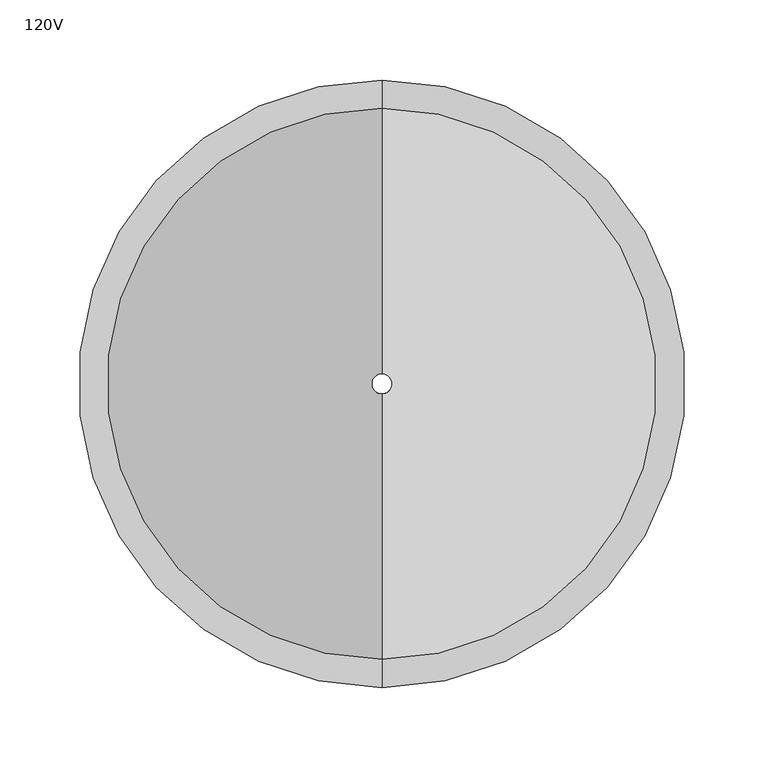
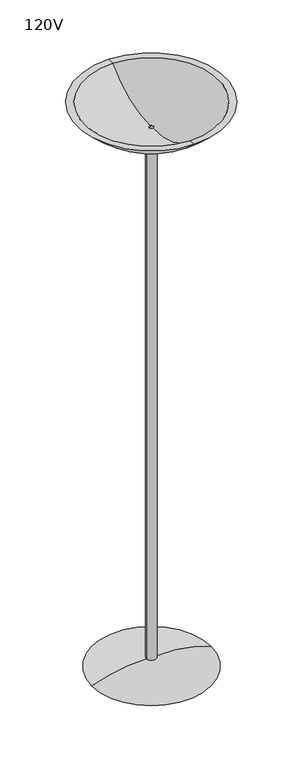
"""IFC4 building model written with IfcOpenShell, lengths in millimetres: light fixture geometry, Floor Lamp - Torchiere : 120V."""

import ifcopenshell
import ifcopenshell.guid

model = None  # the IFC model being written
_history = None  # IfcOwnerHistory: only IFC2X3 demands one
_inside = {}  # id of a spatial element -> (the spatial element, [elements in it])
_under = {}  # id of a project, library or spatial element -> (it, [spatial elements below it])
_declared = {}  # id of a project -> (the project, [libraries it declares])
_typed = {}  # id of a type object -> (the type object, [elements of that type])
_made_of = {}  # id of a material, layer set ... -> (it, [elements and type objects made of it])


def new_model(schema):
    """Start an empty IFC model of exactly this schema.

    Asked for "IFC4X3", IfcOpenShell would pick the latest addendum, in which some entities
    have other attributes; the version numbers below select the first issue.
    IFC2X3 requires an IfcOwnerHistory on every rooted entity: one is made here for all.
    """
    global model, _history
    if schema == "IFC4X3":
        model = ifcopenshell.file(schema_version=(4, 3, 0, 0))
    else:
        model = ifcopenshell.file(schema=schema)
    _inside.clear()
    _under.clear()
    _declared.clear()
    _typed.clear()
    _made_of.clear()
    _history = None
    if model.schema == "IFC2X3":
        org = make("IfcOrganization", Name="unknown")
        user = make(
            "IfcPersonAndOrganization",
            ThePerson=make("IfcPerson", FamilyName="unknown"),
            TheOrganization=org,
        )
        app = make(
            "IfcApplication",
            ApplicationDeveloper=org,
            Version="unknown",
            ApplicationFullName="unknown",
            ApplicationIdentifier="unknown",
        )
        _history = make(
            "IfcOwnerHistory",
            OwningUser=user,
            OwningApplication=app,
            ChangeAction="ADDED",
            CreationDate=0,
        )
    return model


def make(cls, **values):
    """One entity of the class cls with the attributes given. An attribute that is None is left unset."""
    return model.create_entity(
        cls, **{name: value for name, value in values.items() if value is not None}
    )


def rooted(cls, **values):
    """An entity with a GlobalId (a new one), such as an element, a storey or a relation."""
    return make(cls, GlobalId=ifcopenshell.guid.new(), OwnerHistory=_history, **values)


def si_unit(unit_type, name, prefix=None):
    """IfcSIUnit, for example si_unit("LENGTHUNIT", "METRE", prefix="MILLI")."""
    return make("IfcSIUnit", UnitType=unit_type, Prefix=prefix, Name=name)


def assignment(units):
    """IfcUnitAssignment: the units of a project."""
    return None if units is None else make("IfcUnitAssignment", Units=units)


def point(xyz):
    """IfcCartesianPoint."""
    return None if xyz is None else make("IfcCartesianPoint", Coordinates=xyz)


def direction(xyz):
    """IfcDirection."""
    return None if xyz is None else make("IfcDirection", DirectionRatios=xyz)


def frame(location, z_axis=None, x_axis=None):
    """IfcAxis2Placement3D, a coordinate frame: its origin and axes. An axis left out is left unset."""
    return make(
        "IfcAxis2Placement3D",
        Location=point(location),
        Axis=direction(z_axis),
        RefDirection=direction(x_axis),
    )


def origin():
    """The frame at (0, 0, 0) with its axes left unset."""
    return frame((0.0, 0.0, 0.0))


def place(relative_to, where):
    """IfcLocalPlacement: puts the frame where relative to a parent placement (None: the world)."""
    return make(
        "IfcLocalPlacement", PlacementRelTo=relative_to, RelativePlacement=where
    )


def context(
    kind, dimensions, precision=None, world=None, true_north=None, identifier=None
):
    """IfcGeometricRepresentationContext, for example the 3D "Model" context."""
    return make(
        "IfcGeometricRepresentationContext",
        ContextIdentifier=identifier,
        ContextType=kind,
        CoordinateSpaceDimension=dimensions,
        Precision=precision,
        WorldCoordinateSystem=world,
        TrueNorth=true_north,
    )


def project(units=None, contexts=None):
    """IfcProject with its units and contexts."""
    return rooted(
        "IfcProject",
        Name="project",
        RepresentationContexts=contexts,
        UnitsInContext=assignment(units),
    )


def spatial(cls, under=None, at=None, **own):
    """A site, building, storey or space (cls), placed at a placement, below another one or the project."""
    s = rooted(cls, ObjectPlacement=at, **own)
    if under is not None:
        _under.setdefault(under.id(), (under, []))[1].append(s)
    return s


def polyline(points):
    """IfcPolyline through the points."""
    return make("IfcPolyline", Points=[point(p) for p in points])


def circle_curve(where, radius):
    """IfcCircle in the frame where."""
    return make("IfcCircle", Position=where, Radius=radius)


def ellipse_curve(where, semi_axis1, semi_axis2):
    """IfcEllipse in the frame where."""
    return make(
        "IfcEllipse", Position=where, SemiAxis1=semi_axis1, SemiAxis2=semi_axis2
    )


def trimmed(basis, trim1, trim2, sense, master):
    """IfcTrimmedCurve: the piece of a basis curve between two trims."""
    return make(
        "IfcTrimmedCurve",
        BasisCurve=basis,
        Trim1=trim1,
        Trim2=trim2,
        SenseAgreement=sense,
        MasterRepresentation=master,
    )


def shape(context_of_items, identifier, shape_type, items):
    """IfcShapeRepresentation: the items that make up one representation, for example the "Body"."""
    return make(
        "IfcShapeRepresentation",
        ContextOfItems=context_of_items,
        RepresentationIdentifier=identifier,
        RepresentationType=shape_type,
        Items=items,
    )


def source(mapping_origin, context_of_items, identifier, shape_type, items):
    """IfcRepresentationMap: a shape defined once, which mapped items show again and again."""
    return make(
        "IfcRepresentationMap",
        MappingOrigin=mapping_origin,
        MappedRepresentation=shape(context_of_items, identifier, shape_type, items),
    )


def transform(
    local_origin,
    x_axis=None,
    y_axis=None,
    z_axis=None,
    scale=None,
    scale2=None,
    scale3=None,
    uniform=True,
):
    """IfcCartesianTransformationOperator3D, or its non-uniform kind. x_axis, y_axis, z_axis: its Axis1, 2, 3."""
    if uniform:
        return make(
            "IfcCartesianTransformationOperator3D",
            Axis1=direction(x_axis),
            Axis2=direction(y_axis),
            LocalOrigin=point(local_origin),
            Scale=scale,
            Axis3=direction(z_axis),
        )
    return make(
        "IfcCartesianTransformationOperator3DnonUniform",
        Axis1=direction(x_axis),
        Axis2=direction(y_axis),
        LocalOrigin=point(local_origin),
        Scale=scale,
        Axis3=direction(z_axis),
        Scale2=scale2,
        Scale3=scale3,
    )


def mapped(mapping_source, mapping_target):
    """IfcMappedItem: shows the shape of a source again, moved by a transform."""
    return make(
        "IfcMappedItem", MappingSource=mapping_source, MappingTarget=mapping_target
    )


def made_of(thing, what):
    """Note that an element or type object is made of a material, layer set ...; save() writes the relation."""
    if what is not None:
        _made_of.setdefault(what.id(), (what, []))[1].append(thing)
    return thing


def element(
    cls,
    number,
    at=None,
    inside=None,
    cuts=None,
    type_object=None,
    material=None,
    context=None,
    identifier="Body",
    shape_type=None,
    held_by="IfcProductDefinitionShape",
    body=None,
    shapes=None,
    **own,
):
    """One element of the class cls, such as IfcWall. Its Tag is "e" and its number.

    at: its placement. inside: the storey or other place that contains it. cuts: it is an
    opening in that element (IfcRelVoidsElement). A single representation is given by context,
    identifier, shape_type and body (its items); several are given by shapes. held_by: the class
    of the entity that holds the representations. save() writes the other relations.
    """
    e = rooted(cls, Tag="e%d" % number, ObjectPlacement=at, **own)
    if body is not None:
        shapes = [shape(context, identifier, shape_type, body)]
    if shapes is not None:
        e.Representation = make(held_by, Representations=shapes)
    if inside is not None:
        _inside.setdefault(inside.id(), (inside, []))[1].append(e)
    if cuts is not None:
        rooted(
            "IfcRelVoidsElement", RelatingBuildingElement=cuts, RelatedOpeningElement=e
        )
    if type_object is not None:
        _typed.setdefault(type_object.id(), (type_object, []))[1].append(e)
    return made_of(e, material)


def aggregate(whole, parts):
    """IfcRelAggregates: a whole, such as a stair, and the parts it consists of."""
    return rooted("IfcRelAggregates", RelatingObject=whole, RelatedObjects=parts)


def save(model, path):
    """Write the relations noted so far, then the file.

    IfcRelAggregates (storeys below a building ...), IfcRelContainedInSpatialStructure (elements
    in a storey), IfcRelDefinesByType, IfcRelAssociatesMaterial and IfcRelDeclares: one each for
    every whole, place, type object, material and project.
    """
    for whole, parts in _under.values():
        aggregate(whole, parts)
    for where, things in _inside.values():
        rooted(
            "IfcRelContainedInSpatialStructure",
            RelatedElements=things,
            RelatingStructure=where,
        )
    for kind, things in _typed.values():
        rooted("IfcRelDefinesByType", RelatedObjects=things, RelatingType=kind)
    for what, things in _made_of.values():
        rooted("IfcRelAssociatesMaterial", RelatedObjects=things, RelatingMaterial=what)
    for by, libraries in _declared.values():
        rooted("IfcRelDeclares", RelatingContext=by, RelatedDefinitions=libraries)
    model.write(path)


def plane_surface(at):
    """IfcPlane: the flat surface through the origin of the frame at, square to its z axis."""
    return make("IfcPlane", Position=at)


def cylinder_surface(at, radius):
    """IfcCylindricalSurface: all points at the distance radius from the z axis of the frame at."""
    return make("IfcCylindricalSurface", Position=at, Radius=radius)


def revolved_surface(curve, axis_point, axis_direction):
    """IfcSurfaceOfRevolution: the curve turned about the line through axis_point along axis_direction."""
    return make(
        "IfcSurfaceOfRevolution",
        SweptCurve=make("IfcArbitraryOpenProfileDef", ProfileType="CURVE", Curve=curve),
        AxisPosition=make("IfcAxis1Placement", Location=point(axis_point), Axis=direction(axis_direction)),
    )


def advanced_brep(points, edges, surfaces, faces):
    """IfcAdvancedBrep: a solid bounded by faces that lie on surfaces and meet in shared edges.

    An edge is (start, end): straight between two places in points (the first is 0);
    or (start, end, curve); or (start, end, curve, False) where it runs against its curve.
    A face is (place in surfaces, loops), or (place, loops, False) where it looks against
    its surface's normal. A loop lists edges by number (the first is 1), with a minus sign
    where the edge is run from its end to its start. The first loop is the outer one.
    """
    corners = [point(p) for p in points]
    vertices = [make("IfcVertexPoint", VertexGeometry=c) for c in corners]
    made = []
    for start, end, *more in edges:
        made.append(
            make(
                "IfcEdgeCurve",
                EdgeStart=vertices[start],
                EdgeEnd=vertices[end],
                EdgeGeometry=more[0] if more else make("IfcPolyline", Points=[corners[start], corners[end]]),
                SameSense=more[1] if len(more) > 1 else True,
            )
        )
    hull = []
    for where, loops, *sense in faces:
        bounds = []
        for j, loop in enumerate(loops):
            ring = [make("IfcOrientedEdge", EdgeElement=made[abs(k) - 1], Orientation=k > 0) for k in loop]
            bounds.append(
                make(
                    "IfcFaceOuterBound" if j == 0 else "IfcFaceBound",
                    Bound=make("IfcEdgeLoop", EdgeList=ring),
                    Orientation=True,
                )
            )
        hull.append(make("IfcAdvancedFace", Bounds=bounds, FaceSurface=surfaces[where], SameSense=sense[0] if sense else True))
    return make("IfcAdvancedBrep", Outer=make("IfcClosedShell", CfsFaces=hull))


def light_fixture_120v_8a54b260(model_context):
    return source(origin(), model_context, "Body", "AdvancedBrep", [
        advanced_brep(
        [(-12.7, 0.0, 23.8559377), (12.7, 0.0, 23.8559377), (152.4, 0.0, 0.0), (-152.4, 0.0, 0.0), (-12.7, 0.0, 1443.3755116), (12.7, 0.0, 1443.3755116), (-6.35, 0.0, 1443.3755116), (6.35, 0.0, 1443.3755116), (-6.35, 0.0, 0.0), (6.35, 0.0, 0.0)],
        [
            (0, 1, circle_curve(frame((0.0, 0.0, 23.8559377), z_axis=(0.0, 0.0, -1.0), x_axis=(0.0, 1.0, 0.0)), 12.7)),
            (1, 2, circle_curve(frame((27.9174306, 0.0, -307.9995076), z_axis=(0.0, 1.0, 0.0), x_axis=(1.0, 0.0, 0.0)), 332.2041643)),
            (2, 3, circle_curve(frame((0.0, 0.0, 0.0), z_axis=(0.0, 0.0, 1.0), x_axis=(0.0, 1.0, 0.0)), 152.4)),
            (3, 0, circle_curve(frame((-27.9174306, 0.0, -307.9995076), z_axis=(0.0, 1.0, 0.0), x_axis=(-1.0, 0.0, 0.0)), 332.2041643)),
            (1, 0, circle_curve(frame((0.0, 0.0, 23.8559377), z_axis=(0.0, 0.0, -1.0), x_axis=(0.0, 1.0, 0.0)), 12.7)),
            (3, 2, circle_curve(frame((0.0, 0.0, 0.0), z_axis=(0.0, 0.0, 1.0), x_axis=(0.0, 1.0, 0.0)), 152.4)),
            (4, 5, circle_curve(frame((0.0, 0.0, 1443.3755116), z_axis=(0.0, 0.0, -1.0), x_axis=(0.0, 1.0, 0.0)), 12.7)),
            (5, 1),
            (0, 4),
            (5, 4, circle_curve(frame((0.0, 0.0, 1443.3755116), z_axis=(0.0, 0.0, -1.0), x_axis=(0.0, 1.0, 0.0)), 12.7)),
            (6, 7, circle_curve(frame((0.0, 0.0, 1443.3755116), z_axis=(0.0, 0.0, -1.0), x_axis=(0.0, 1.0, 0.0)), 6.35)),
            (7, 5),
            (4, 6),
            (7, 6, circle_curve(frame((0.0, 0.0, 1443.3755116), z_axis=(0.0, 0.0, -1.0), x_axis=(0.0, 1.0, 0.0)), 6.35)),
            (8, 9, circle_curve(frame((0.0, 0.0, 0.0), z_axis=(0.0, 0.0, -1.0), x_axis=(0.0, 1.0, 0.0)), 6.35)),
            (9, 7),
            (6, 8),
            (9, 8, circle_curve(frame((0.0, 0.0, 0.0), z_axis=(0.0, 0.0, -1.0), x_axis=(0.0, 1.0, 0.0)), 6.35)),
            (2, 9),
            (8, 3),
        ],
        [
            revolved_surface(trimmed(ellipse_curve(frame((0.0, 27.9174306, -307.9995076), z_axis=(1.0, 0.0, 0.0), x_axis=(0.0, 1.0, 0.0)), 332.2041643, 332.2041643), [point((0.0, 152.4, 0.0))], [point((0.0, 12.7, 23.8559377))], True, "CARTESIAN"), (0.0, 0.0, 0.0), (0.0, 0.0, 1.0)),
            cylinder_surface(frame((0.0, 0.0, 0.0), z_axis=(0.0, 0.0, 1.0), x_axis=(0.0, 1.0, 0.0)), 12.7),
            plane_surface(frame((0.0, 0.0, 1443.3755116), z_axis=(0.0, 0.0, 1.0), x_axis=(0.0, 1.0, 0.0))),
            revolved_surface(polyline([(0.0, 6.35, 1443.3755116), (0.0, 6.35, 0.0)]), (0.0, 0.0, 0.0), (0.0, 0.0, 1.0)),
            plane_surface(frame((0.0, 0.0, 0.0), z_axis=(0.0, 0.0, -1.0), x_axis=(0.0, 1.0, 0.0))),
        ],
        [
            (0, [[1, 2, 3, 4]]),
            (0, [[5, -4, 6, -2]]),
            (1, [[7, 8, -1, 9]]),
            (1, [[10, -9, -5, -8]]),
            (2, [[11, 12, -7, 13]]),
            (2, [[14, -13, -10, -12]]),
            (3, [[15, 16, -11, 17]]),
            (3, [[18, -17, -14, -16]]),
            (4, [[-3, 19, -15, 20]]),
            (4, [[-6, -20, -18, -19]]),
        ],
    ),
        advanced_brep(
        [(0.0, -171.9151264, 1524.0), (0.0, 171.9151264, 1524.0), (0.0, 189.6566143, 1524.0), (0.0, -189.6566143, 1524.0), (0.0, -6.35, 1456.0755116), (0.0, 6.35, 1456.0755116), (0.0, -6.35, 1443.3755116), (0.0, 6.35, 1443.3755116), (0.0, -12.7, 1443.3755116), (0.0, 12.7, 1443.3755116)],
        [
            (0, 1, circle_curve(frame((0.0, 0.0, 1524.0), z_axis=(0.0, 0.0, -1.0), x_axis=(0.0, 1.0, 0.0)), 171.9151264)),
            (1, 2),
            (2, 3, circle_curve(frame((0.0, 0.0, 1524.0), z_axis=(0.0, 0.0, 1.0), x_axis=(0.0, 1.0, 0.0)), 189.6566143)),
            (3, 0),
            (1, 0, circle_curve(frame((0.0, 0.0, 1524.0), z_axis=(0.0, 0.0, -1.0), x_axis=(0.0, 1.0, 0.0)), 171.9151264)),
            (3, 2, circle_curve(frame((0.0, 0.0, 1524.0), z_axis=(0.0, 0.0, 1.0), x_axis=(0.0, 1.0, 0.0)), 189.6566143)),
            (4, 5, circle_curve(frame((0.0, 0.0, 1456.0755116), z_axis=(0.0, 0.0, -1.0), x_axis=(0.0, 1.0, 0.0)), 6.35)),
            (5, 1, circle_curve(frame((0.0, 6.35, 1691.8192616), z_axis=(1.0, 0.0, 0.0), x_axis=(0.0, 1.0, 0.0)), 235.74375)),
            (0, 4, circle_curve(frame((0.0, -6.35, 1691.8192616), z_axis=(1.0, 0.0, 0.0), x_axis=(0.0, -1.0, 0.0)), 235.74375)),
            (5, 4, circle_curve(frame((0.0, 0.0, 1456.0755116), z_axis=(0.0, 0.0, -1.0), x_axis=(0.0, 1.0, 0.0)), 6.35)),
            (6, 7, circle_curve(frame((0.0, 0.0, 1443.3755116), z_axis=(0.0, 0.0, -1.0), x_axis=(0.0, 1.0, 0.0)), 6.35)),
            (7, 5),
            (4, 6),
            (7, 6, circle_curve(frame((0.0, 0.0, 1443.3755116), z_axis=(0.0, 0.0, -1.0), x_axis=(0.0, 1.0, 0.0)), 6.35)),
            (8, 9, circle_curve(frame((0.0, 0.0, 1443.3755116), z_axis=(0.0, 0.0, -1.0), x_axis=(0.0, 1.0, 0.0)), 12.7)),
            (9, 7),
            (6, 8),
            (9, 8, circle_curve(frame((0.0, 0.0, 1443.3755116), z_axis=(0.0, 0.0, -1.0), x_axis=(0.0, 1.0, 0.0)), 12.7)),
            (2, 9, circle_curve(frame((0.0, 6.35, 1691.8192616), z_axis=(-1.0, 0.0, 0.0), x_axis=(0.0, 1.0, 0.0)), 248.5248869)),
            (8, 3, circle_curve(frame((0.0, -6.35, 1691.8192616), z_axis=(-1.0, 0.0, 0.0), x_axis=(0.0, -1.0, 0.0)), 248.5248869)),
        ],
        [
            plane_surface(frame((0.0, 0.0, 1524.0), z_axis=(0.0, 0.0, 1.0), x_axis=(0.0, 1.0, 0.0))),
            revolved_surface(trimmed(ellipse_curve(frame((0.0, 6.35, 1691.8192616), z_axis=(-1.0, 0.0, 0.0), x_axis=(0.0, 1.0, 0.0)), 235.74375, 235.74375), [point((0.0, 171.9151264, 1524.0))], [point((0.0, 6.35, 1456.0755116))], True, "CARTESIAN"), (0.0, 0.0, 1676.4), (0.0, 0.0, 1.0)),
            revolved_surface(polyline([(0.0, 6.35, 1456.0755116), (0.0, 6.35, 1443.3755116)]), (0.0, 0.0, 1676.4), (0.0, 0.0, 1.0)),
            plane_surface(frame((0.0, 0.0, 1443.3755116), z_axis=(0.0, 0.0, -1.0), x_axis=(0.0, 1.0, 0.0))),
            revolved_surface(trimmed(ellipse_curve(frame((0.0, 6.35, 1691.8192616), z_axis=(1.0, 0.0, 0.0), x_axis=(0.0, 1.0, 0.0)), 248.5248869, 248.5248869), [point((0.0, 12.7, 1443.3755116))], [point((0.0, 189.6566143, 1524.0))], True, "CARTESIAN"), (0.0, 0.0, 1676.4), (0.0, 0.0, 1.0)),
        ],
        [
            (0, [[1, 2, 3, 4]]),
            (0, [[5, -4, 6, -2]]),
            (1, [[7, 8, -1, 9]]),
            (1, [[10, -9, -5, -8]]),
            (2, [[11, 12, -7, 13]]),
            (2, [[14, -13, -10, -12]]),
            (3, [[15, 16, -11, 17]]),
            (3, [[18, -17, -14, -16]]),
            (4, [[-3, 19, -15, 20]]),
            (4, [[-6, -20, -18, -19]]),
        ],
    ),
    ])


if __name__ == "__main__":
    model = new_model("IFC4")
    model_context = context("Model", 3, world=origin())
    ifc_project = project(units=[si_unit("LENGTHUNIT", "METRE", prefix="MILLI")], contexts=[model_context])
    site = spatial("IfcSite", under=ifc_project)
    building = spatial("IfcBuilding", under=site)
    placement = place(None, origin())
    light_fixture_120v_shape = light_fixture_120v_8a54b260(model_context)
    element("IfcLightFixture", 1, ObjectType="Floor Lamp - Torchiere : 120V", at=placement, inside=building, context=model_context, shape_type="MappedRepresentation", body=[
        mapped(light_fixture_120v_shape, transform((0.0, 0.0, 0.0), x_axis=(1.0, 0.0, 0.0), y_axis=(0.0, 1.0, 0.0), z_axis=(0.0, 0.0, 1.0))),
    ])
    save(model, "model.ifc")
